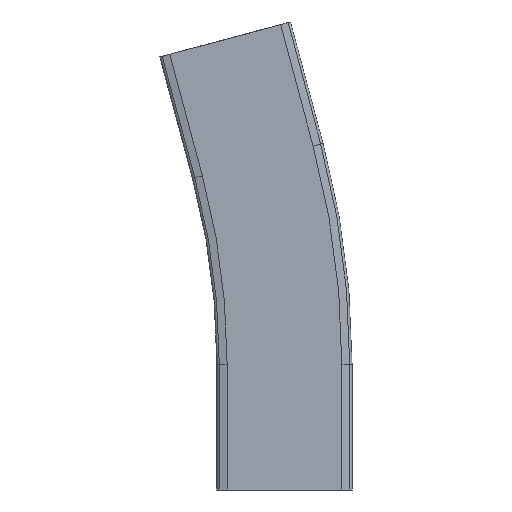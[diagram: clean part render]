
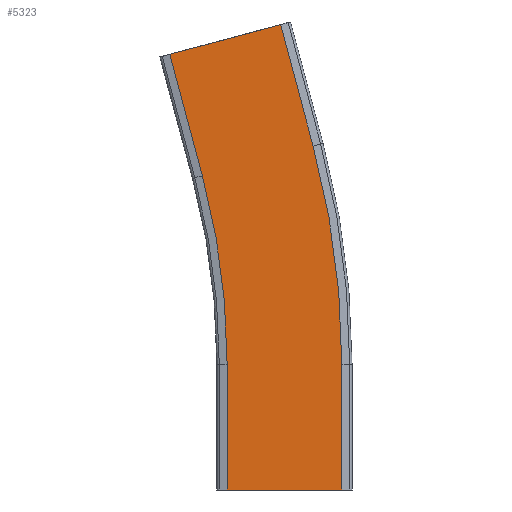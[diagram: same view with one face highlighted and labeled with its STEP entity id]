
A CAD part, front view. The second image highlights one B-rep face of the part: STEP entity #5323.
In plain terms, the highlighted planar face has unit normal (0, -1, 0).
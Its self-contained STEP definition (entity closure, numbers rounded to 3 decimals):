
#4913=CARTESIAN_POINT('',(36.5,-11.,0.0));
#4914=VERTEX_POINT('',#4913);
#4921=CARTESIAN_POINT('',(-36.5,-11.,0.0));
#4922=VERTEX_POINT('',#4921);
#4923=CARTESIAN_POINT('',(-36.5,-11.,0.0));
#4924=DIRECTION('',(1.0,0.0,0.0));
#4925=VECTOR('',#4924,73.);
#4926=LINE('',#4923,#4925);
#4927=EDGE_CURVE('',#4922,#4914,#4926,.T.);
#4953=CARTESIAN_POINT('',(-36.5,-11.,80.0));
#4954=VERTEX_POINT('',#4953);
#4968=CARTESIAN_POINT('',(-36.5,-11.,0.0));
#4969=DIRECTION('',(0.0,0.0,1.0));
#4970=VECTOR('',#4969,80.0);
#4971=LINE('',#4968,#4970);
#4972=EDGE_CURVE('',#4922,#4954,#4971,.T.);
#4982=CARTESIAN_POINT('',(36.5,-11.,80.0));
#4983=VERTEX_POINT('',#4982);
#4992=CARTESIAN_POINT('',(36.5,-11.,0.0));
#4993=DIRECTION('',(0.0,0.0,1.0));
#4994=VECTOR('',#4993,80.0);
#4995=LINE('',#4992,#4994);
#4996=EDGE_CURVE('',#4914,#4983,#4995,.T.);
#5109=CARTESIAN_POINT('',(18.219,-11.,218.856));
#5110=VERTEX_POINT('',#5109);
#5117=CARTESIAN_POINT('',(-500.0,-11.,80.0));
#5118=DIRECTION('',(0.0,-1.0,0.0));
#5119=DIRECTION('',(1.0,0.0,0.0));
#5120=AXIS2_PLACEMENT_3D('',#5117,#5118,#5119);
#5121=CIRCLE('',#5120,536.5);
#5122=EDGE_CURVE('',#4983,#5110,#5121,.T.);
#5176=CARTESIAN_POINT('',(-52.293,-11.,199.963));
#5177=VERTEX_POINT('',#5176);
#5192=CARTESIAN_POINT('',(-500.0,-11.,80.0));
#5193=DIRECTION('',(0.0,-1.0,0.0));
#5194=DIRECTION('',(1.0,0.0,0.0));
#5195=AXIS2_PLACEMENT_3D('',#5192,#5193,#5194);
#5196=CIRCLE('',#5195,463.5);
#5197=EDGE_CURVE('',#4954,#5177,#5196,.T.);
#5207=CARTESIAN_POINT('',(-2.486,-11.,296.13));
#5208=VERTEX_POINT('',#5207);
#5215=CARTESIAN_POINT('',(18.219,-11.,218.856));
#5216=DIRECTION('',(-0.259,0.,0.966));
#5217=VECTOR('',#5216,80.);
#5218=LINE('',#5215,#5217);
#5219=EDGE_CURVE('',#5110,#5208,#5218,.T.);
#5284=CARTESIAN_POINT('',(-72.999,-11.,277.237));
#5285=VERTEX_POINT('',#5284);
#5294=CARTESIAN_POINT('',(-52.293,-11.,199.963));
#5295=DIRECTION('',(-0.259,0.,0.966));
#5296=VECTOR('',#5295,80.);
#5297=LINE('',#5294,#5296);
#5298=EDGE_CURVE('',#5177,#5285,#5297,.T.);
#5303=CARTESIAN_POINT('',(72.804,-11.,15.143));
#5304=DIRECTION('',(0.0,-1.0,0.0));
#5305=DIRECTION('',(0.259,0.0,-0.966));
#5306=AXIS2_PLACEMENT_3D('',#5303,#5304,#5305);
#5307=PLANE('',#5306);
#5308=CARTESIAN_POINT('',(-2.486,-11.,296.13));
#5309=DIRECTION('',(-0.966,0.,-0.259));
#5310=VECTOR('',#5309,73.);
#5311=LINE('',#5308,#5310);
#5312=EDGE_CURVE('',#5208,#5285,#5311,.T.);
#5313=ORIENTED_EDGE('',*,*,#5312,.T.);
#5314=ORIENTED_EDGE('',*,*,#5298,.F.);
#5315=ORIENTED_EDGE('',*,*,#5197,.F.);
#5316=ORIENTED_EDGE('',*,*,#4972,.F.);
#5317=ORIENTED_EDGE('',*,*,#4927,.T.);
#5318=ORIENTED_EDGE('',*,*,#4996,.T.);
#5319=ORIENTED_EDGE('',*,*,#5122,.T.);
#5320=ORIENTED_EDGE('',*,*,#5219,.T.);
#5321=EDGE_LOOP('',(#5313,#5314,#5315,#5316,#5317,#5318,#5319,#5320));
#5322=FACE_OUTER_BOUND('',#5321,.T.);
#5323=ADVANCED_FACE('',(#5322),#5307,.T.);
